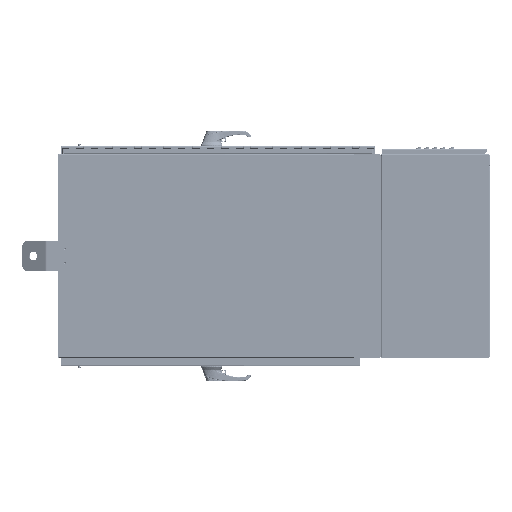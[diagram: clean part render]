
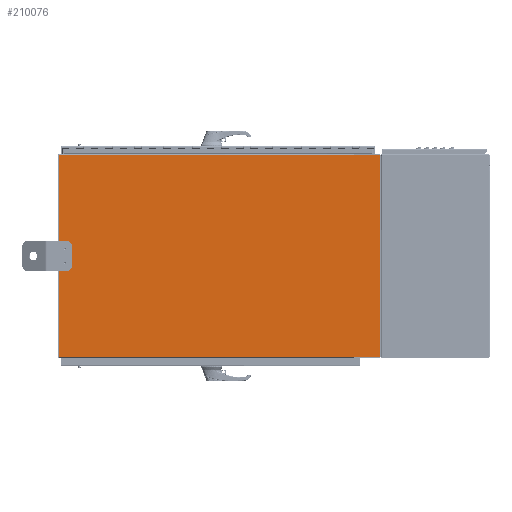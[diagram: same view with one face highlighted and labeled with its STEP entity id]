
A CAD part, left-side view. The second image highlights one B-rep face of the part: STEP entity #210076.
In plain terms, the highlighted planar face has unit normal (-1, 0, 0) as drawn and (0, 0, 1) by its records, which use the part's own axes.
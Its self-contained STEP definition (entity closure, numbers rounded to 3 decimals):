
#2328 = ORIENTED_EDGE ( 'NONE', *, *, #27758, .F. ) ;
#2331 = ORIENTED_EDGE ( 'NONE', *, *, #27581, .F. ) ;
#2334 = ORIENTED_EDGE ( 'NONE', *, *, #27761, .F. ) ;
#2337 = ORIENTED_EDGE ( 'NONE', *, *, #27495, .F. ) ;
#2340 = ORIENTED_EDGE ( 'NONE', *, *, #27742, .T. ) ;
#2343 = ORIENTED_EDGE ( 'NONE', *, *, #27755, .T. ) ;
#2346 = ORIENTED_EDGE ( 'NONE', *, *, #27736, .T. ) ;
#2348 = ORIENTED_EDGE ( 'NONE', *, *, #27720, .T. ) ;
#2350 = ORIENTED_EDGE ( 'NONE', *, *, #27764, .T. ) ;
#2353 = ORIENTED_EDGE ( 'NONE', *, *, #27752, .T. ) ;
#2356 = ORIENTED_EDGE ( 'NONE', *, *, #27707, .T. ) ;
#2359 = ORIENTED_EDGE ( 'NONE', *, *, #27768, .T. ) ;
#13621 = VERTEX_POINT ( 'NONE', #144373 ) ;
#13624 = VERTEX_POINT ( 'NONE', #144374 ) ;
#13630 = VERTEX_POINT ( 'NONE', #144377 ) ;
#13633 = VERTEX_POINT ( 'NONE', #144378 ) ;
#13737 = VERTEX_POINT ( 'NONE', #144418 ) ;
#13740 = VERTEX_POINT ( 'NONE', #144419 ) ;
#13748 = VERTEX_POINT ( 'NONE', #144422 ) ;
#13750 = VERTEX_POINT ( 'NONE', #144423 ) ;
#13756 = VERTEX_POINT ( 'NONE', #144425 ) ;
#13759 = VERTEX_POINT ( 'NONE', #144426 ) ;
#13762 = VERTEX_POINT ( 'NONE', #144427 ) ;
#13765 = VERTEX_POINT ( 'NONE', #144428 ) ;
#17913 = EDGE_LOOP ( 'NONE', ( #2328, #2331 ) ) ;
#17940 = EDGE_LOOP ( 'NONE', ( #2334, #2337 ) ) ;
#17944 = EDGE_LOOP ( 'NONE', ( #2340, #2343, #2346, #2348, #2350, #2353, #2356, #2359 ) ) ;
#27495 = EDGE_CURVE ( 'NONE', #13630, #13633, #143291, .T. ) ;
#27581 = EDGE_CURVE ( 'NONE', #13621, #13624, #143389, .T. ) ;
#27707 = EDGE_CURVE ( 'NONE', #13762, #13765, #143489, .T. ) ;
#27720 = EDGE_CURVE ( 'NONE', #13740, #13756, #143496, .T. ) ;
#27736 = EDGE_CURVE ( 'NONE', #13737, #13740, #143509, .T. ) ;
#27742 = EDGE_CURVE ( 'NONE', #13750, #13748, #143502, .T. ) ;
#27752 = EDGE_CURVE ( 'NONE', #13759, #13762, #143517, .T. ) ;
#27755 = EDGE_CURVE ( 'NONE', #13748, #13737, #143516, .T. ) ;
#27758 = EDGE_CURVE ( 'NONE', #13624, #13621, #143523, .T. ) ;
#27761 = EDGE_CURVE ( 'NONE', #13633, #13630, #143525, .T. ) ;
#27764 = EDGE_CURVE ( 'NONE', #13756, #13759, #143524, .T. ) ;
#27768 = EDGE_CURVE ( 'NONE', #13765, #13750, #143521, .T. ) ;
#122580 = CARTESIAN_POINT ( 'NONE',  ( 1., 21.25, 0.125 ) ) ;
#122583 = DIRECTION ( 'NONE',  ( 0., 0., 1. ) ) ;
#122584 = DIRECTION ( 'NONE',  ( 1., 0., 0. ) ) ;
#122677 = CARTESIAN_POINT ( 'NONE',  ( 13.875, -18.5, 0.125 ) ) ;
#122682 = CARTESIAN_POINT ( 'NONE',  ( -13.875, -22.125, 0.125 ) ) ;
#122683 = DIRECTION ( 'NONE',  ( -1., 0., 0. ) ) ;
#122692 = DIRECTION ( 'NONE',  ( 0., -1., 0. ) ) ;
#122695 = CARTESIAN_POINT ( 'NONE',  ( -13.875, 22.125, 0.125 ) ) ;
#122698 = CARTESIAN_POINT ( 'NONE',  ( 13.875, -18.5, 0.125 ) ) ;
#122704 = DIRECTION ( 'NONE',  ( -1., 0., 0. ) ) ;
#122707 = DIRECTION ( 'NONE',  ( -1., 0., 0. ) ) ;
#122709 = CARTESIAN_POINT ( 'NONE',  ( 13.875, -22.125, 0.125 ) ) ;
#122713 = CARTESIAN_POINT ( 'NONE',  ( 1., 21.25, 0.125 ) ) ;
#122714 = DIRECTION ( 'NONE',  ( 0., 1., 0. ) ) ;
#122715 = CARTESIAN_POINT ( 'NONE',  ( -13.835, 22.125, 0.125 ) ) ;
#122717 = DIRECTION ( 'NONE',  ( 0., -1., 0. ) ) ;
#122718 = CARTESIAN_POINT ( 'NONE',  ( -13.875, -22.125, 0.125 ) ) ;
#122719 = CARTESIAN_POINT ( 'NONE',  ( -1., 21.25, 0.125 ) ) ;
#122720 = DIRECTION ( 'NONE',  ( 0., 0., 1. ) ) ;
#122721 = DIRECTION ( 'NONE',  ( 1., 0., 0. ) ) ;
#122723 = DIRECTION ( 'NONE',  ( 0., 0., 1. ) ) ;
#122724 = DIRECTION ( 'NONE',  ( 1., 0., 0. ) ) ;
#122725 = DIRECTION ( 'NONE',  ( 1., 0., 0. ) ) ;
#122726 = CARTESIAN_POINT ( 'NONE',  ( 13.835, -18.5, 0.125 ) ) ;
#122727 = DIRECTION ( 'NONE',  ( 0., 1., 0. ) ) ;
#125959 = FACE_BOUND ( 'NONE', #17913, .T. ) ;
#125984 = FACE_BOUND ( 'NONE', #17940, .T. ) ;
#125995 = FACE_OUTER_BOUND ( 'NONE', #17944, .T. ) ;
#139455 = CARTESIAN_POINT ( 'NONE',  ( -1., 21.25, 0.125 ) ) ;
#139470 = DIRECTION ( 'NONE',  ( 0., 0., 1. ) ) ;
#139472 = DIRECTION ( 'NONE',  ( 1., 0., 0. ) ) ;
#143291 = CIRCLE ( 'NONE', #162359, 0.266 ) ;
#143389 = CIRCLE ( 'NONE', #162402, 0.266 ) ;
#143489 = LINE ( 'NONE', #122677, #143490 ) ;
#143490 = VECTOR ( 'NONE', #122683, 39.37 ) ;
#143496 = LINE ( 'NONE', #122682, #143497 ) ;
#143497 = VECTOR ( 'NONE', #122692, 39.37 ) ;
#143502 = LINE ( 'NONE', #122695, #143503 ) ;
#143503 = VECTOR ( 'NONE', #122707, 39.37 ) ;
#143508 = VECTOR ( 'NONE', #122704, 39.37 ) ;
#143509 = LINE ( 'NONE', #122698, #143508 ) ;
#143516 = LINE ( 'NONE', #122715, #143520 ) ;
#143517 = LINE ( 'NONE', #122709, #143518 ) ;
#143518 = VECTOR ( 'NONE', #122714, 39.37 ) ;
#143519 = VECTOR ( 'NONE', #122727, 39.37 ) ;
#143520 = VECTOR ( 'NONE', #122717, 39.37 ) ;
#143521 = LINE ( 'NONE', #122726, #143519 ) ;
#143522 = VECTOR ( 'NONE', #122725, 39.37 ) ;
#143523 = CIRCLE ( 'NONE', #162516, 0.266 ) ;
#143524 = LINE ( 'NONE', #122718, #143522 ) ;
#143525 = CIRCLE ( 'NONE', #162397, 0.266 ) ;
#144373 = CARTESIAN_POINT ( 'NONE',  ( 0.734, 21.25, 0.125 ) ) ;
#144374 = CARTESIAN_POINT ( 'NONE',  ( 1.266, 21.25, 0.125 ) ) ;
#144377 = CARTESIAN_POINT ( 'NONE',  ( -1.266, 21.25, 0.125 ) ) ;
#144378 = CARTESIAN_POINT ( 'NONE',  ( -0.734, 21.25, 0.125 ) ) ;
#144418 = CARTESIAN_POINT ( 'NONE',  ( -13.835, -18.5, 0.125 ) ) ;
#144419 = CARTESIAN_POINT ( 'NONE',  ( -13.875, -18.5, 0.125 ) ) ;
#144422 = CARTESIAN_POINT ( 'NONE',  ( -13.835, 22.125, 0.125 ) ) ;
#144423 = CARTESIAN_POINT ( 'NONE',  ( 13.835, 22.125, 0.125 ) ) ;
#144425 = CARTESIAN_POINT ( 'NONE',  ( -13.875, -22.125, 0.125 ) ) ;
#144426 = CARTESIAN_POINT ( 'NONE',  ( 13.875, -22.125, 0.125 ) ) ;
#144427 = CARTESIAN_POINT ( 'NONE',  ( 13.875, -18.5, 0.125 ) ) ;
#144428 = CARTESIAN_POINT ( 'NONE',  ( 13.835, -18.5, 0.125 ) ) ;
#162359 = AXIS2_PLACEMENT_3D ( 'NONE', #139455, #139470, #139472 ) ;
#162397 = AXIS2_PLACEMENT_3D ( 'NONE', #122719, #122723, #122724 ) ;
#162402 = AXIS2_PLACEMENT_3D ( 'NONE', #122580, #122583, #122584 ) ;
#162516 = AXIS2_PLACEMENT_3D ( 'NONE', #122713, #122720, #122721 ) ;
#210076 = ADVANCED_FACE ( 'NONE', ( #125959, #125984, #125995 ), #289021, .T. ) ;
#253832 = AXIS2_PLACEMENT_3D ( 'NONE', #289012, #289024, #289026 ) ;
#289012 = CARTESIAN_POINT ( 'NONE',  ( 13.875, 22.125, 0.125 ) ) ;
#289021 = PLANE ( 'NONE',  #253832 ) ;
#289024 = DIRECTION ( 'NONE',  ( 0., 0., 1. ) ) ;
#289026 = DIRECTION ( 'NONE',  ( 1., 0., 0. ) ) ;
